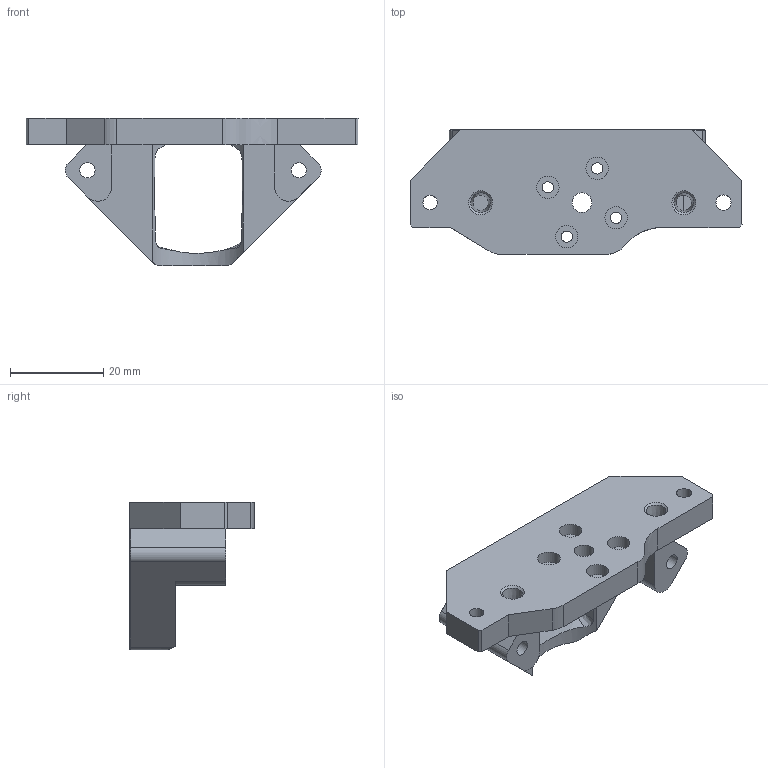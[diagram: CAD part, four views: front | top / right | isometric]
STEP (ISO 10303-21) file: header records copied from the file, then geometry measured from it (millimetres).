
FILE_DESCRIPTION(/* description */ (''),/* implementation_level */ '2;1');
FILE_NAME(/* name */ 'C:/Users/Martin/Documents/icarus-2.1/icarus-2-current-step-files/2-mounts/mount-sherpa-mini-r1-dragonfly-bmo-2.1.step',/* time_stamp */ '2022-08-22T21:33:58+02:00',/* author */ (''),/* organization */ (''),/* preprocessor_version */ 'ST-DEVELOPER v19',/* originating_system */ 'Autodesk Translation Framework v11.7.0.108',/* authorisation */ '');
FILE_SCHEMA (('AUTOMOTIVE_DESIGN { 1 0 10303 214 3 1 1 }'));
Length unit declared in the file: millimetre
Products named in the file (1): icarus-2-hotend-extruder-mounts
Bounding box: 71.07 x 26.66 x 31.68 mm (x, y, z)
Volume: 13609.5 mm3; surface area: 7564.1 mm2
Topology: 1 solids, 1 shells, 88 faces, 238 edges, 157 vertices
Faces by surface type: plane 37, cylinder 25, bspline 18, cone 8
Full cylindrical faces by diameter (mm): 2.4 x4, 3.1 x1, 3.25 x4, 3.3 x2, 4.2 x1, 4.8 x4
Entity records: 3617 total; most frequent: CARTESIAN_POINT 1413, ORIENTED_EDGE 476, DIRECTION 389, EDGE_CURVE 238, VERTEX_POINT 157, AXIS2_PLACEMENT_3D 132, LINE 125, VECTOR 125
